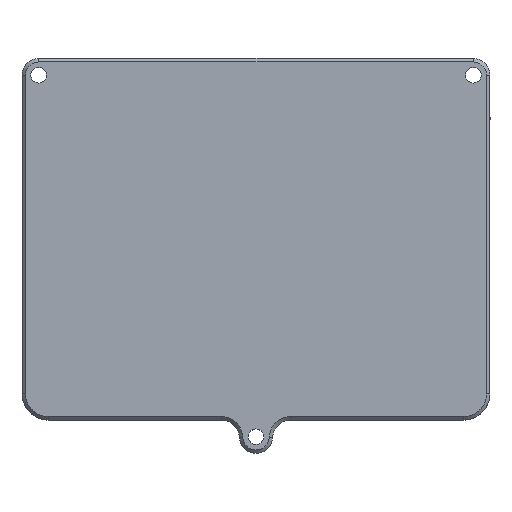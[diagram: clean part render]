
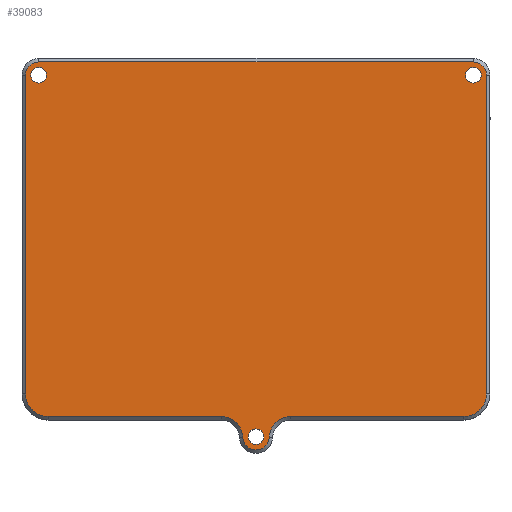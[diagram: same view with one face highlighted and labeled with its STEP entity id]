
A CAD part, top view. The second image highlights one B-rep face of the part: STEP entity #39083.
In plain terms, the highlighted planar face has unit normal (0, 0, 1).
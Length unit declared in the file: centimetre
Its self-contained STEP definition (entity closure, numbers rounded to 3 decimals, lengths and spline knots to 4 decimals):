
#1588=CIRCLE('',#40784,0.225);
#1590=CIRCLE('',#40787,0.225);
#1592=CIRCLE('',#40790,0.225);
#1594=CIRCLE('',#40793,0.65);
#1595=CIRCLE('',#40794,0.62);
#1596=CIRCLE('',#40795,0.38);
#1597=CIRCLE('',#40796,0.62);
#1598=CIRCLE('',#40797,0.65);
#1599=CIRCLE('',#40798,0.38);
#1600=CIRCLE('',#40799,0.38);
#5250=VERTEX_POINT('',#56541);
#5252=VERTEX_POINT('',#56546);
#5254=VERTEX_POINT('',#56551);
#5256=VERTEX_POINT('',#56556);
#5257=VERTEX_POINT('',#56557);
#5258=VERTEX_POINT('',#56559);
#5259=VERTEX_POINT('',#56561);
#5260=VERTEX_POINT('',#56563);
#5261=VERTEX_POINT('',#56565);
#5262=VERTEX_POINT('',#56567);
#5263=VERTEX_POINT('',#56569);
#5264=VERTEX_POINT('',#56571);
#5265=VERTEX_POINT('',#56573);
#5266=VERTEX_POINT('',#56575);
#5267=VERTEX_POINT('',#56577);
#10381=VECTOR('',#45573,1.);
#10382=VECTOR('',#45580,1.);
#10383=VECTOR('',#45583,1.);
#10384=VECTOR('',#45586,1.);
#10385=VECTOR('',#45589,1.);
#12989=LINE('',#56558,#10381);
#12990=LINE('',#56566,#10382);
#12991=LINE('',#56570,#10383);
#12992=LINE('',#56574,#10384);
#12993=LINE('',#56578,#10385);
#15648=EDGE_CURVE('',#5250,#5250,#1588,.T.);
#15650=EDGE_CURVE('',#5252,#5252,#1590,.T.);
#15652=EDGE_CURVE('',#5254,#5254,#1592,.T.);
#15654=EDGE_CURVE('',#5256,#5257,#1594,.T.);
#15655=EDGE_CURVE('',#5258,#5256,#12989,.T.);
#15656=EDGE_CURVE('',#5259,#5258,#1595,.T.);
#15657=EDGE_CURVE('',#5260,#5259,#1596,.T.);
#15658=EDGE_CURVE('',#5261,#5260,#1597,.T.);
#15659=EDGE_CURVE('',#5262,#5261,#12990,.T.);
#15660=EDGE_CURVE('',#5263,#5262,#1598,.T.);
#15661=EDGE_CURVE('',#5264,#5263,#12991,.T.);
#15662=EDGE_CURVE('',#5265,#5264,#1599,.T.);
#15663=EDGE_CURVE('',#5266,#5265,#12992,.T.);
#15664=EDGE_CURVE('',#5267,#5266,#1600,.T.);
#15665=EDGE_CURVE('',#5257,#5267,#12993,.T.);
#22311=ORIENTED_EDGE('',*,*,#15648,.T.);
#22312=ORIENTED_EDGE('',*,*,#15650,.T.);
#22313=ORIENTED_EDGE('',*,*,#15652,.T.);
#22314=ORIENTED_EDGE('',*,*,#15654,.F.);
#22315=ORIENTED_EDGE('',*,*,#15655,.F.);
#22316=ORIENTED_EDGE('',*,*,#15656,.F.);
#22317=ORIENTED_EDGE('',*,*,#15657,.F.);
#22318=ORIENTED_EDGE('',*,*,#15658,.F.);
#22319=ORIENTED_EDGE('',*,*,#15659,.F.);
#22320=ORIENTED_EDGE('',*,*,#15660,.F.);
#22321=ORIENTED_EDGE('',*,*,#15661,.F.);
#22322=ORIENTED_EDGE('',*,*,#15662,.F.);
#22323=ORIENTED_EDGE('',*,*,#15663,.F.);
#22324=ORIENTED_EDGE('',*,*,#15664,.F.);
#22325=ORIENTED_EDGE('',*,*,#15665,.F.);
#35264=EDGE_LOOP('',(#22311));
#35265=EDGE_LOOP('',(#22312));
#35266=EDGE_LOOP('',(#22313));
#35267=EDGE_LOOP('',(#22314,#22315,#22316,#22317,#22318,#22319,#22320,#22321,
#22322,#22323,#22324,#22325));
#37177=FACE_BOUND('',#35264,.T.);
#37178=FACE_BOUND('',#35265,.T.);
#37179=FACE_BOUND('',#35266,.T.);
#37180=FACE_BOUND('',#35267,.T.);
#39083=ADVANCED_FACE('',(#37177,#37178,#37179,#37180),#105635,.T.);
#40784=AXIS2_PLACEMENT_3D('',#56540,#45554,#45555);
#40787=AXIS2_PLACEMENT_3D('',#56545,#45560,#45561);
#40790=AXIS2_PLACEMENT_3D('',#56550,#45566,#45567);
#40792=AXIS2_PLACEMENT_3D('',#56554,#45570,$);
#40793=AXIS2_PLACEMENT_3D('',#56555,#45571,#45572);
#40794=AXIS2_PLACEMENT_3D('',#56560,#45574,#45575);
#40795=AXIS2_PLACEMENT_3D('',#56562,#45576,#45577);
#40796=AXIS2_PLACEMENT_3D('',#56564,#45578,#45579);
#40797=AXIS2_PLACEMENT_3D('',#56568,#45581,#45582);
#40798=AXIS2_PLACEMENT_3D('',#56572,#45584,#45585);
#40799=AXIS2_PLACEMENT_3D('',#56576,#45587,#45588);
#45554=DIRECTION('',(0.,0.,-1.));
#45555=DIRECTION('',(0.225,0.,0.));
#45560=DIRECTION('',(0.,0.,-1.));
#45561=DIRECTION('',(0.225,0.,0.));
#45566=DIRECTION('',(0.,0.,-1.));
#45567=DIRECTION('',(0.225,0.,0.));
#45570=DIRECTION('',(0.,0.,1.));
#45571=DIRECTION('',(0.,0.,-1.));
#45572=DIRECTION('',(-0.46,-0.46,0.));
#45573=DIRECTION('',(-1.,0.,0.));
#45574=DIRECTION('',(0.,0.,1.));
#45575=DIRECTION('',(0.43,0.447,0.));
#45576=DIRECTION('',(0.,0.,-1.));
#45577=DIRECTION('',(0.,-0.38,0.));
#45578=DIRECTION('',(0.,0.,1.));
#45579=DIRECTION('',(-0.43,0.447,0.));
#45580=DIRECTION('',(-1.,0.,0.));
#45581=DIRECTION('',(0.,0.,-1.));
#45582=DIRECTION('',(0.46,-0.46,0.));
#45583=DIRECTION('',(0.,-1.,0.));
#45584=DIRECTION('',(0.,0.,-1.));
#45585=DIRECTION('',(0.269,0.269,0.));
#45586=DIRECTION('',(1.,0.,0.));
#45587=DIRECTION('',(0.,0.,-1.));
#45588=DIRECTION('',(-0.269,0.269,0.));
#45589=DIRECTION('',(0.,1.,0.));
#56540=CARTESIAN_POINT('',(12.97,9.91,1.49));
#56541=CARTESIAN_POINT('',(12.745,9.91,1.49));
#56545=CARTESIAN_POINT('',(6.725,-0.48,1.49));
#56546=CARTESIAN_POINT('',(6.5,-0.48,1.49));
#56550=CARTESIAN_POINT('',(0.48,9.91,1.49));
#56551=CARTESIAN_POINT('',(0.255,9.91,1.49));
#56554=CARTESIAN_POINT('',(6.725,5.0759,1.49));
#56555=CARTESIAN_POINT('',(0.75,0.75,1.49));
#56556=CARTESIAN_POINT('',(0.75,0.1,1.49));
#56557=CARTESIAN_POINT('',(0.1,0.75,1.49));
#56558=CARTESIAN_POINT('',(4.9815,0.1,1.49));
#56559=CARTESIAN_POINT('',(5.7258,0.1,1.49));
#56560=CARTESIAN_POINT('',(5.7258,-0.52,1.49));
#56561=CARTESIAN_POINT('',(6.3453,-0.4952,1.49));
#56562=CARTESIAN_POINT('',(6.725,-0.48,1.49));
#56563=CARTESIAN_POINT('',(7.1047,-0.4952,1.49));
#56564=CARTESIAN_POINT('',(7.7242,-0.52,1.49));
#56565=CARTESIAN_POINT('',(7.7242,0.1,1.49));
#56566=CARTESIAN_POINT('',(8.4685,0.1,1.49));
#56567=CARTESIAN_POINT('',(12.7,0.1,1.49));
#56568=CARTESIAN_POINT('',(12.7,0.75,1.49));
#56569=CARTESIAN_POINT('',(13.35,0.75,1.49));
#56570=CARTESIAN_POINT('',(13.35,5.2029,1.49));
#56571=CARTESIAN_POINT('',(13.35,9.91,1.49));
#56572=CARTESIAN_POINT('',(12.97,9.91,1.49));
#56573=CARTESIAN_POINT('',(12.97,10.29,1.49));
#56574=CARTESIAN_POINT('',(6.725,10.29,1.49));
#56575=CARTESIAN_POINT('',(0.48,10.29,1.49));
#56576=CARTESIAN_POINT('',(0.48,9.91,1.49));
#56577=CARTESIAN_POINT('',(0.1,9.91,1.49));
#56578=CARTESIAN_POINT('',(0.1,5.2029,1.49));
#105635=PLANE('',#40792);
